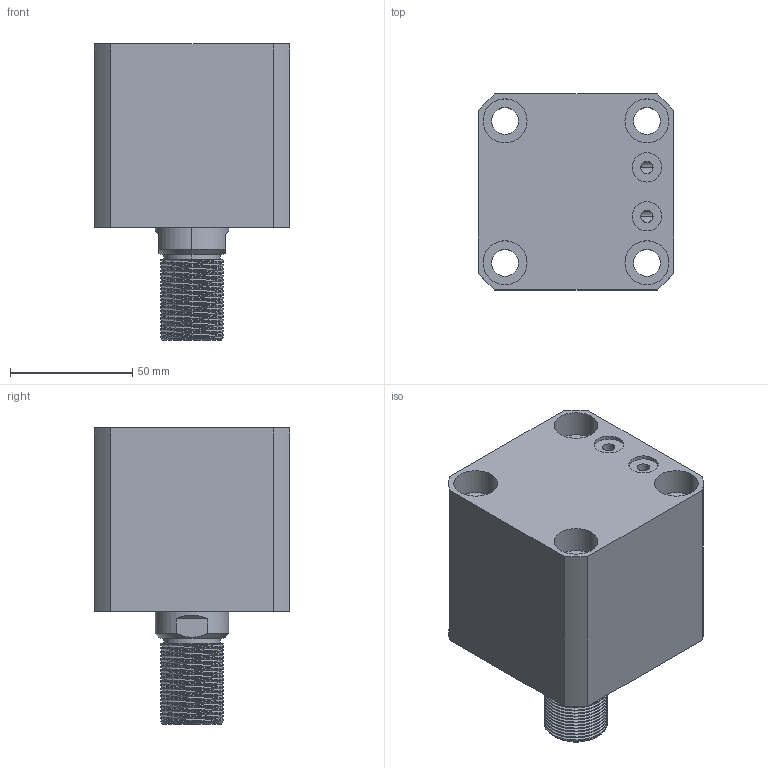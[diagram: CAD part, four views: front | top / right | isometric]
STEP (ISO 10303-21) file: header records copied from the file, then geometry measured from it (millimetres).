
FILE_DESCRIPTION (( 'STEP AP203' ), '1' );
FILE_NAME ('CHTB-SDMA50-15W.STEP', '2018-05-19T03:38:22', ( '' ), ( '' ), 'SwSTEP 2.0', 'SolidWorks 2015', '' );
FILE_SCHEMA (( 'CONFIG_CONTROL_DESIGN' ));
Length unit declared in the file: millimetre
Products named in the file (5): 活塞杆SDMB50-15W; CHTB-SDMA50-15W; 掛极SDMB50-15W; CHTM-SDMA50QG; M6
Assembly tree (5 placements, depth 2):
  CHTB-SDMA50-15W
    掛极SDMB50-15W
    活塞杆SDMB50-15W
    CHTM-SDMA50QG
    M6  x2
Bounding box: 80 x 80 x 121 mm (x, y, z)
Volume: 430876.7 mm3; surface area: 93167.3 mm2
Topology: 5 solids, 5 shells, 308 faces, 827 edges, 550 vertices
Faces by surface type: cylinder 176, plane 58, cone 30, bspline 28, torus 16
Entity records: 17826 total; most frequent: CARTESIAN_POINT 11025, ORIENTED_EDGE 1460, DIRECTION 1144, EDGE_CURVE 730, VERTEX_POINT 489, AXIS2_PLACEMENT_3D 459, EDGE_LOOP 315, ADVANCED_FACE 273
